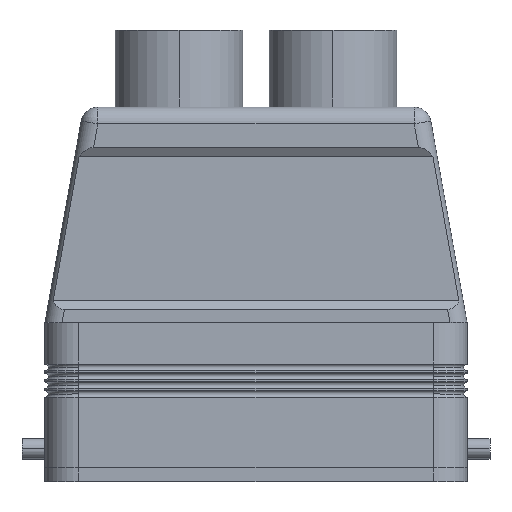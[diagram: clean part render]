
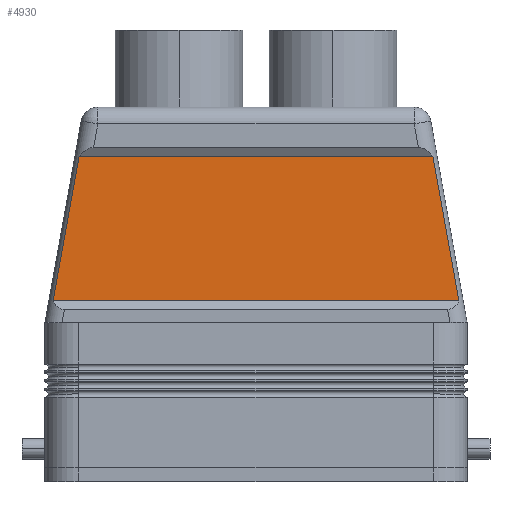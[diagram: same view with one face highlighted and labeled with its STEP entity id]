
A CAD part, top view. The second image highlights one B-rep face of the part: STEP entity #4930.
In plain terms, the highlighted planar face has unit normal (0, 0, 1).
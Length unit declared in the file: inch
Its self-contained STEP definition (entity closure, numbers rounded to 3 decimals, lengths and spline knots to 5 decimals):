
#1830 = DIRECTION ( 'NONE',  ( -1., 0., 0. ) ) ;
#1831 = VECTOR ( 'NONE', #1830, 39.37008 ) ;
#1832 = CARTESIAN_POINT ( 'NONE',  ( 2., 2.30862, 0.67 ) ) ;
#1833 = LINE ( 'NONE', #1832, #1831 ) ;
#1834 = CARTESIAN_POINT ( 'NONE',  ( 1.3116, 2.30862, 0.67 ) ) ;
#1835 = DIRECTION ( 'NONE',  ( -0.177, 0.984, 0. ) ) ;
#1836 = VECTOR ( 'NONE', #1835, 39.37008 ) ;
#1837 = CARTESIAN_POINT ( 'NONE',  ( 1.20132, 2.9214, 0.67 ) ) ;
#1838 = LINE ( 'NONE', #1837, #1836 ) ;
#1839 = DIRECTION ( 'NONE',  ( -1., 0., 0. ) ) ;
#1840 = VECTOR ( 'NONE', #1839, 39.37008 ) ;
#1841 = CARTESIAN_POINT ( 'NONE',  ( 2., 1.23862, 0.67 ) ) ;
#1842 = LINE ( 'NONE', #1841, #1840 ) ;
#1919 = CARTESIAN_POINT ( 'NONE',  ( 1.50417, 1.23862, 0.67 ) ) ;
#2156 = FACE_OUTER_BOUND ( 'NONE', #4931, .T. ) ;
#2228 = CARTESIAN_POINT ( 'NONE',  ( -1.50417, 1.23862, 0.67 ) ) ;
#2229 = CARTESIAN_POINT ( 'NONE',  ( -1.3116, 2.30862, 0.67 ) ) ;
#2230 = DIRECTION ( 'NONE',  ( -0.177, -0.984, 0. ) ) ;
#2231 = VECTOR ( 'NONE', #2230, 39.37008 ) ;
#2232 = CARTESIAN_POINT ( 'NONE',  ( -1.20132, 2.9214, 0.67 ) ) ;
#2233 = LINE ( 'NONE', #2232, #2231 ) ;
#2247 = DIRECTION ( 'NONE',  ( -1., 0., 0. ) ) ;
#2248 = DIRECTION ( 'NONE',  ( 0., 0., -1. ) ) ;
#2249 = CARTESIAN_POINT ( 'NONE',  ( 2., 2.30862, 0.67 ) ) ;
#2250 = AXIS2_PLACEMENT_3D ( 'NONE', #2249, #2248, #2247 ) ;
#2251 = PLANE ( 'NONE',  #2250 ) ;
#4672 = VERTEX_POINT ( 'NONE', #1919 ) ;
#4776 = EDGE_CURVE ( 'NONE', #4672, #4935, #1842, .T. ) ;
#4777 = ORIENTED_EDGE ( 'NONE', *, *, #4778, .T. ) ;
#4778 = EDGE_CURVE ( 'NONE', #4672, #4779, #1838, .T. ) ;
#4779 = VERTEX_POINT ( 'NONE', #1834 ) ;
#4780 = ORIENTED_EDGE ( 'NONE', *, *, #4781, .T. ) ;
#4781 = EDGE_CURVE ( 'NONE', #4779, #4934, #1833, .T. ) ;
#4930 = ADVANCED_FACE ( 'NONE', ( #2156 ), #2251, .F. ) ;
#4931 = EDGE_LOOP ( 'NONE', ( #4932, #4936, #4777, #4780 ) ) ;
#4932 = ORIENTED_EDGE ( 'NONE', *, *, #4933, .T. ) ;
#4933 = EDGE_CURVE ( 'NONE', #4934, #4935, #2233, .T. ) ;
#4934 = VERTEX_POINT ( 'NONE', #2229 ) ;
#4935 = VERTEX_POINT ( 'NONE', #2228 ) ;
#4936 = ORIENTED_EDGE ( 'NONE', *, *, #4776, .F. ) ;
